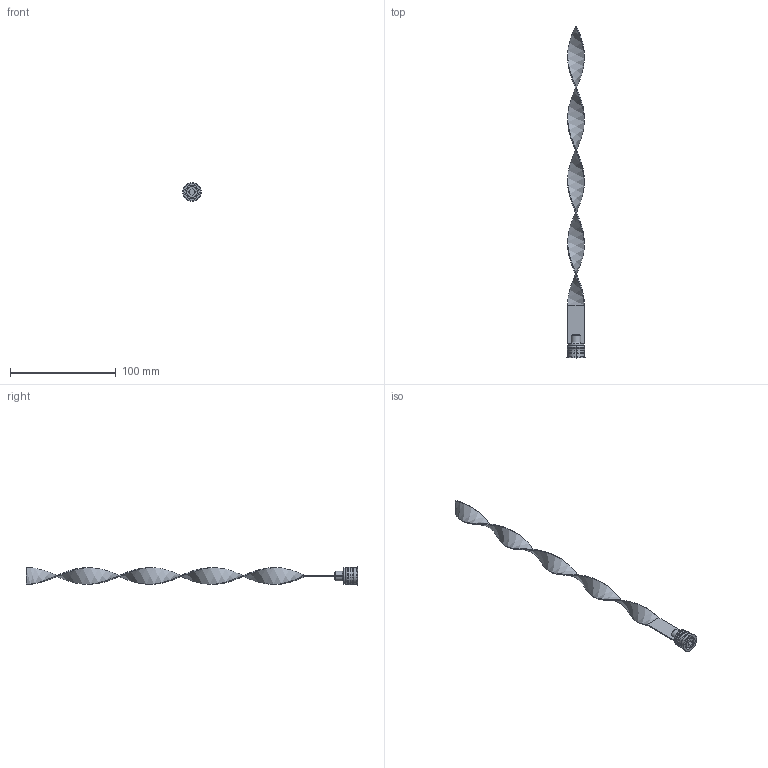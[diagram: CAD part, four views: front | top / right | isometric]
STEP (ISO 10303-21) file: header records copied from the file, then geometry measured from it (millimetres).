
FILE_DESCRIPTION (( 'STEP AP203' ), '1' );
FILE_NAME ('RLS-16Fx300.STEP', '2011-02-08T09:10:56', ( ' ' ), ( ' ' ), 'SwSTEP 2.0', 'SolidWorks 2011', '' );
FILE_SCHEMA (( 'CONFIG_CONTROL_DESIGN' ));
Length unit declared in the file: millimetre
Products named in the file (1): RLS-16Fx300
Bounding box: 17.5 x 313.8 x 17.5 mm (x, y, z)
Volume: 7614.5 mm3; surface area: 12064.5 mm2
Topology: 1 solids, 1 shells, 77 faces, 179 edges, 110 vertices
Faces by surface type: plane 32, cylinder 17, cone 16, torus 8, bspline 4
Entity records: 3310 total; most frequent: CARTESIAN_POINT 1469, DIRECTION 383, ORIENTED_EDGE 358, EDGE_CURVE 179, AXIS2_PLACEMENT_3D 144, VERTEX_POINT 110, LINE 95, VECTOR 95
